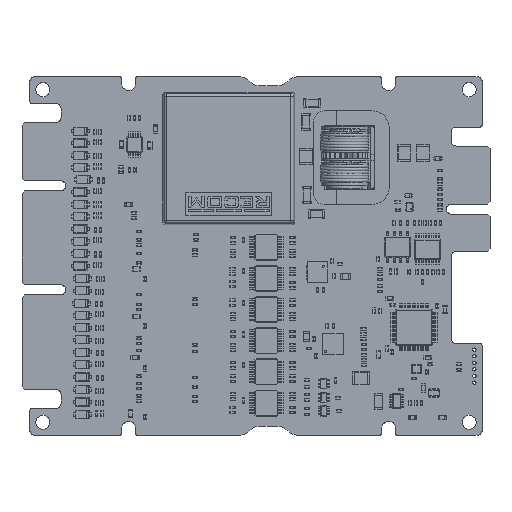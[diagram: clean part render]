
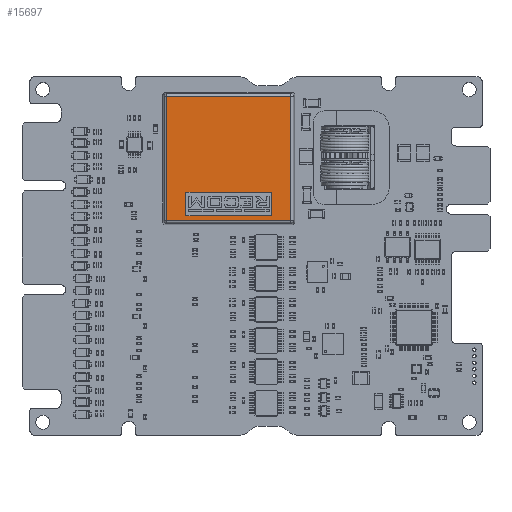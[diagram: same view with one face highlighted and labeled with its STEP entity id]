
A CAD part, top view. The second image highlights one B-rep face of the part: STEP entity #15697.
In plain terms, the highlighted planar face has unit normal (0, 0, 1) as drawn and (0, -1, 0) by its records, which use the part's own axes.
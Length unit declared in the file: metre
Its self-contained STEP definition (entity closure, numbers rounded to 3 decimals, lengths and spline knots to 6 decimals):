
#15697=ADVANCED_FACE('0:635',(#43201,#43202),#43203,.F.);
#16283=EDGE_CURVE('0:3272',#44063,#44066,#44069,.T.);
#16323=EDGE_CURVE('0:3197',#44066,#44120,#44123,.T.);
#16485=EDGE_CURVE('0:1979',#44325,#44063,#44333,.T.);
#16575=EDGE_CURVE('0:3215',#44120,#44325,#44456,.T.);
#17071=EDGE_CURVE('0:1997',#45097,#45090,#45100,.T.);
#17077=EDGE_CURVE('0:1991',#45090,#45102,#45108,.T.);
#17083=EDGE_CURVE('0:1985',#45102,#45110,#45116,.T.);
#17087=EDGE_CURVE('0:1982',#45110,#45097,#45120,.T.);
#43201=FACE_BOUND('',#79329,.T.);
#43202=FACE_OUTER_BOUND('',#79330,.T.);
#43203=PLANE('',#79331);
#44063=VERTEX_POINT('',#80889);
#44066=VERTEX_POINT('',#80893);
#44069=LINE('',#80897,#80898);
#44120=VERTEX_POINT('',#80985);
#44123=LINE('',#80989,#80990);
#44325=VERTEX_POINT('',#81422);
#44333=LINE('',#81434,#81435);
#44456=LINE('',#81672,#81673);
#45090=VERTEX_POINT('',#82992);
#45097=VERTEX_POINT('',#83003);
#45100=LINE('',#83008,#83009);
#45102=VERTEX_POINT('',#83012);
#45108=LINE('',#83022,#83023);
#45110=VERTEX_POINT('',#83026);
#45116=LINE('',#83036,#83037);
#45120=LINE('',#83044,#83045);
#79329=EDGE_LOOP('',(#134804,#134805,#134806,#134807));
#79330=EDGE_LOOP('',(#134808,#134809,#134810,#134811));
#79331=AXIS2_PLACEMENT_3D('',#134812,#134813,#134814);
#80889=CARTESIAN_POINT('',(0.011946,-0.0102,-0.011946));
#80893=CARTESIAN_POINT('',(0.011946,-0.0102,0.011946));
#80897=CARTESIAN_POINT('',(0.011946,-0.0102,-0.011946));
#80898=VECTOR('',#135776,1.0);
#80985=CARTESIAN_POINT('',(-0.011946,-0.0102,0.011946));
#80989=CARTESIAN_POINT('',(0.011946,-0.0102,0.011946));
#80990=VECTOR('',#135800,1.0);
#81422=CARTESIAN_POINT('',(-0.011946,-0.0102,-0.011946));
#81434=CARTESIAN_POINT('',(-0.011946,-0.0102,-0.011946));
#81435=VECTOR('',#135878,1.0);
#81672=CARTESIAN_POINT('',(-0.011946,-0.0102,0.011946));
#81673=VECTOR('',#135934,1.0);
#82992=CARTESIAN_POINT('',(0.00825,-0.0102,0.0065));
#83003=CARTESIAN_POINT('',(-0.00825,-0.0102,0.0065));
#83008=CARTESIAN_POINT('',(-0.00825,-0.0102,0.0065));
#83009=VECTOR('',#136115,1.0);
#83012=CARTESIAN_POINT('',(0.00825,-0.0102,0.011));
#83022=CARTESIAN_POINT('',(0.00825,-0.0102,0.0065));
#83023=VECTOR('',#136118,1.0);
#83026=CARTESIAN_POINT('',(-0.00825,-0.0102,0.011));
#83036=CARTESIAN_POINT('',(0.00825,-0.0102,0.011));
#83037=VECTOR('',#136121,1.0);
#83044=CARTESIAN_POINT('',(-0.00825,-0.0102,0.011));
#83045=VECTOR('',#136123,1.0);
#134804=ORIENTED_EDGE('',*,*,#17083,.F.);
#134805=ORIENTED_EDGE('',*,*,#17077,.F.);
#134806=ORIENTED_EDGE('',*,*,#17071,.F.);
#134807=ORIENTED_EDGE('',*,*,#17087,.F.);
#134808=ORIENTED_EDGE('',*,*,#16575,.T.);
#134809=ORIENTED_EDGE('',*,*,#16485,.T.);
#134810=ORIENTED_EDGE('',*,*,#16283,.T.);
#134811=ORIENTED_EDGE('',*,*,#16323,.T.);
#134812=CARTESIAN_POINT('',(0.0,-0.0102,0.0));
#134813=DIRECTION('',(-0.0,1.0,0.0));
#134814=DIRECTION('',(1.0,0.0,0.0));
#135776=DIRECTION('',(0.,0.0,1.0));
#135800=DIRECTION('',(-1.0,0.0,0.));
#135878=DIRECTION('',(1.0,0.0,0.));
#135934=DIRECTION('',(0.,0.0,-1.0));
#136115=DIRECTION('',(1.0,0.0,0.0));
#136118=DIRECTION('',(0.0,0.0,1.0));
#136121=DIRECTION('',(-1.0,0.0,0.0));
#136123=DIRECTION('',(0.0,0.0,-1.0));
